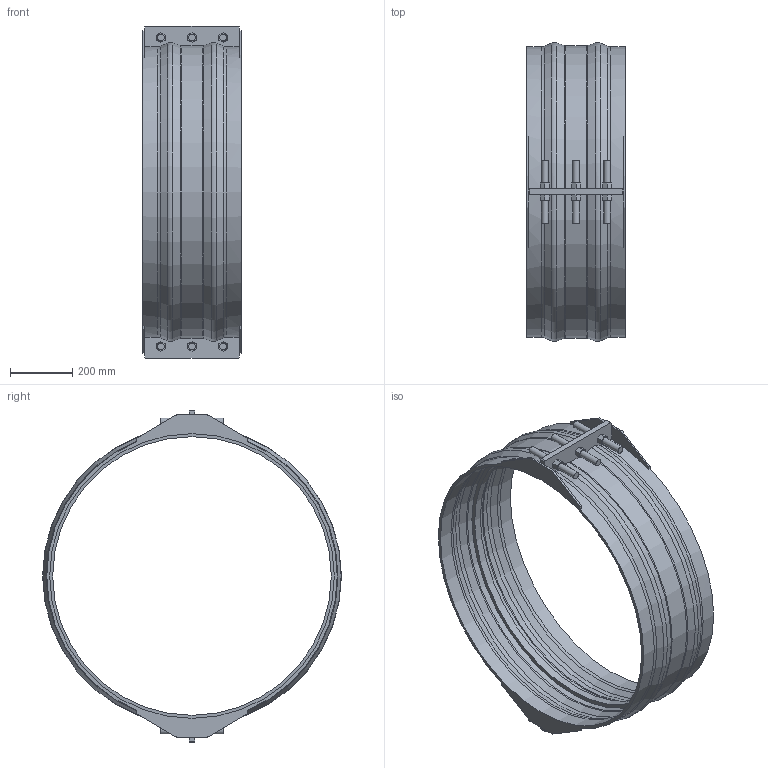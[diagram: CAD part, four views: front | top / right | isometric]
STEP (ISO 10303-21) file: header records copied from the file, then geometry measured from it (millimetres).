
FILE_DESCRIPTION(/* description */ ('VIC SS RESTRAINED COUPLING STYLE 233S (FLEX) (BRD)','CAx-IF Rec.Pracs.---Representation and Presentation of Product Manufacturing Information (PMI)---4.0---2014-10-13'),/* implementation_level */ '2;1');
FILE_NAME(/* name */ 'C:\Users\kkamble\AppData\Roaming\Autodesk\ApplicationPlugins\Back Up\Victaulic_VBSP_Coupling Flexible Restrained_Style 233S (BRD)\Victaulic_VBSP_Coupling Flexible Restrained_Style 233S (BRD)_175psi_36 (900).stp',/* time_stamp */ '2020-09-22T18:29:30+06:00',/* author */ ('Vjadhav'),/* organization */ ('Victaulic'),/* preprocessor_version */ 'ST-DEVELOPER v17.2',/* originating_system */ 'Autodesk Inventor 2019',/* authorisation */ '');
FILE_SCHEMA (('AP242_MANAGED_MODEL_BASED_3D_ENGINEERING_MIM_LF { 1 0 10303 442 1 1 4 }'));
Length unit declared in the file: inch
Products named in the file (1): Style_233S_Type_2_175psi-36.0
Bounding box: 317.5 x 960.14 x 1066.8 mm (x, y, z)
Volume: 11438642.2 mm3; surface area: 2289237 mm2
Topology: 1 solids, 1 shells, 211 faces, 557 edges, 374 vertices
Faces by surface type: plane 142, cylinder 39, torus 18, cone 12
Full cylindrical faces by diameter (mm): 22.225 x12, 895.35 x1, 914.4 x2, 920.75 x2
Entity records: 7032 total; most frequent: CARTESIAN_POINT 1384, ORIENTED_EDGE 1114, DIRECTION 1111, EDGE_CURVE 557, VERTEX_POINT 374, LINE 373, VECTOR 373, AXIS2_PLACEMENT_3D 369
